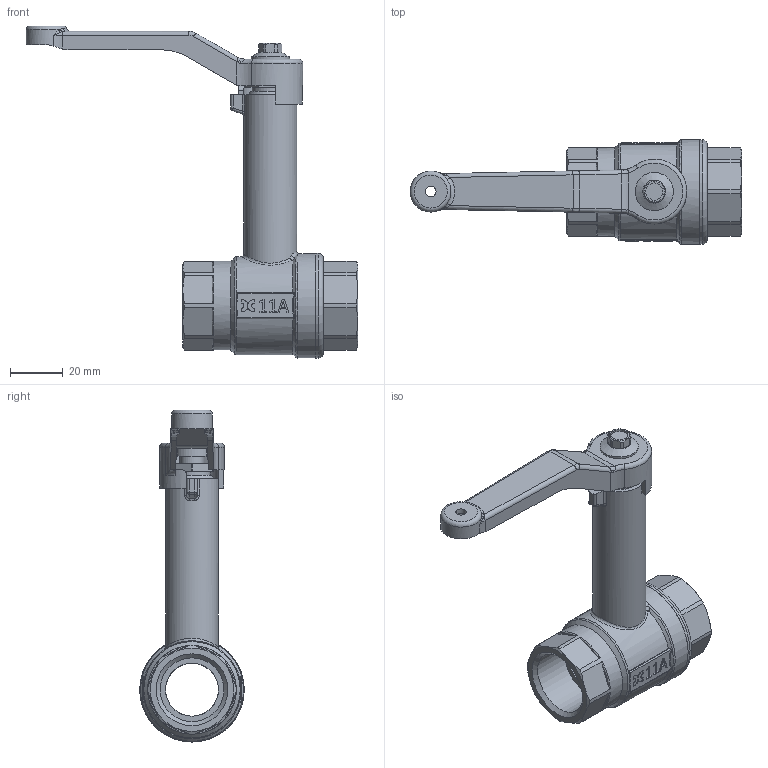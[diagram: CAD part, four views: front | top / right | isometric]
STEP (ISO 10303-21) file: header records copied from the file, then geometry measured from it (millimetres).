
FILE_DESCRIPTION(/* description */ ('Corpo prolunga femmina 3/4"'),/* implementation_level */ '2;1');
FILE_NAME(/* name */ '\\dcidrosfer01\user$\ut4\Desktop\Traber Ticom 13-03-15\Valv. sfera 034 art.109.stp',/* time_stamp */ '2015-03-13T13:51:30+01:00',/* author */ ('ut4'),/* organization */ (''),/* preprocessor_version */ 'ST-DEVELOPER v15.6',/* originating_system */ 'Autodesk Inventor 2015',/* authorisation */ '');
FILE_SCHEMA (('AUTOMOTIVE_DESIGN { 1 0 10303 214 3 1 1 }'));
Length unit declared in the file: millimetre
Products named in the file (13): Corpo prolunga femmina 034; sede 034; sfera 034; Manicotto femmina 034; Perno prolunga Ø12; O-ring 8.73x1.78; Rondella ottone prolunga 14; Tubetto prolunga 14; anello stoppa 14; Premistoppa prolunga es.16; Leva 2; Vite rond. inc. 5x14 DACRO; Valv. sfera 034 art.109
Assembly tree (14 placements, depth 2):
  Valv. sfera 034 art.109
    Corpo prolunga femmina 034
    sede 034  x2
    sfera 034
    Manicotto femmina 034
    Perno prolunga Ø12
    O-ring 8.73x1.78
    Rondella ottone prolunga 14  x2
    Tubetto prolunga 14
    anello stoppa 14
    Premistoppa prolunga es.16
    Leva 2
    Vite rond. inc. 5x14 DACRO
Bounding box: 125.3 x 39.5 x 125.45 mm (x, y, z)
Volume: 63925 mm3; surface area: 47332.4 mm2
Topology: 14 solids, 14 shells, 536 faces, 1315 edges, 830 vertices
Faces by surface type: plane 259, cylinder 122, bspline 75, cone 48, torus 29, sphere 3
Full cylindrical faces by diameter (mm): 3.6 x1, 4 x1, 4.134 x1, 5 x1, 6.5 x1, 8 x1, 8.4 x1, 9.3 x2, 9.6 x1, 9.8 x1, 10 x3, 10.5 x1, 11.2 x1, 12 x3, 12.2 x1, 13.7 x1, 14 x4, 14.25 x1, 14.5 x1, 14.75 x1, 16 x1, 20 x6, 24.12 x2, 28 x4, 32.6 x1, 33.5 x1, 34 x1, 34.6 x1, 37 x1, 39.5 x2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
Entity records: 16561 total; most frequent: CARTESIAN_POINT 4731, ORIENTED_EDGE 2376, DIRECTION 2257, EDGE_CURVE 1188, AXIS2_PLACEMENT_3D 837, VERTEX_POINT 800, EDGE_LOOP 656, LINE 583
